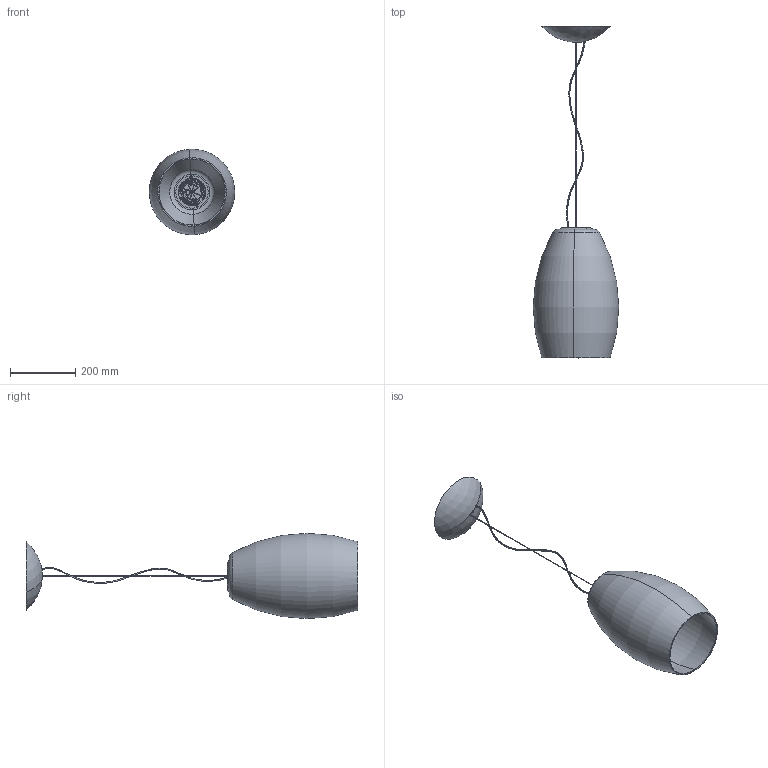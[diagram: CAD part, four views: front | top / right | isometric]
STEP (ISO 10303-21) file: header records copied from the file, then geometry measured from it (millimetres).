
FILE_DESCRIPTION (( 'STEP AP214' ), '1' );
FILE_NAME ('278_1_S_LD_3D.STEP', '2021-05-17T09:53:58', ( '' ), ( '' ), 'SwSTEP 2.0', 'SolidWorks 2021', '' );
FILE_SCHEMA (( 'AUTOMOTIVE_DESIGN' ));
Length unit declared in the file: millimetre
Products named in the file (1): 278_1_S_LD_3D
Bounding box: 262.34 x 1018.58 x 261.85 mm (x, y, z)
Volume: 2139996.3 mm3; surface area: 705009.5 mm2
Topology: 7 solids, 7 shells, 1327 faces, 3424 edges, 2078 vertices
Faces by surface type: bspline 477, plane 342, cylinder 204, torus 169, cone 101, sphere 34
Entity records: 67834 total; most frequent: CARTESIAN_POINT 25476, ORIENTED_EDGE 6700, DIRECTION 4563, EDGE_CURVE 3350, VERTEX_POINT 2078, AXIS2_PLACEMENT_3D 1873, EDGE_LOOP 1400, B_SPLINE_CURVE_WITH_KNOTS 1358
